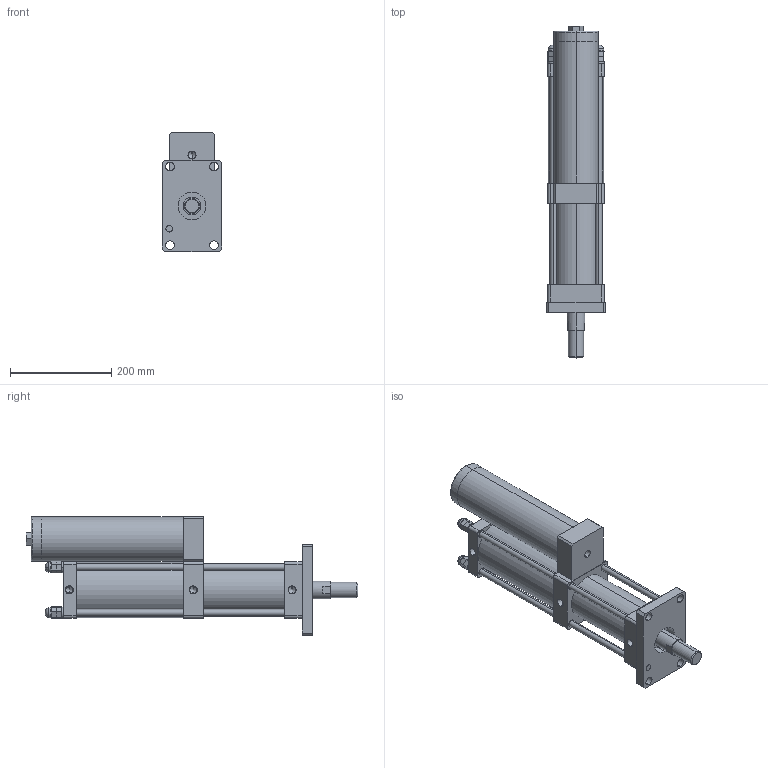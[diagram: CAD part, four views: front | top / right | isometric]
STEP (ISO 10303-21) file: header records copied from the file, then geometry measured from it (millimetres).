
FILE_DESCRIPTION (( 'STEP AP203' ), '1' );
FILE_NAME ('CPT-80-100-10-8T.STEP', '2016-03-11T03:09:09', ( 'WIN' ), ( '' ), 'SwSTEP 2.0', 'SolidWorks 2014', '' );
FILE_SCHEMA (( 'CONFIG_CONTROL_DESIGN' ));
Length unit declared in the file: millimetre
Products named in the file (1): CPT-80-100-10-8T
Bounding box: 118 x 655 x 235 mm (x, y, z)
Volume: 5555474.4 mm3; surface area: 628372.3 mm2
Topology: 17 solids, 17 shells, 389 faces, 959 edges, 560 vertices
Faces by surface type: plane 181, cylinder 90, bspline 48, torus 46, cone 24
Entity records: 12577 total; most frequent: CARTESIAN_POINT 3667, DIRECTION 1874, ORIENTED_EDGE 1786, EDGE_CURVE 893, AXIS2_PLACEMENT_3D 687, VERTEX_POINT 560, VECTOR 500, LINE 500
